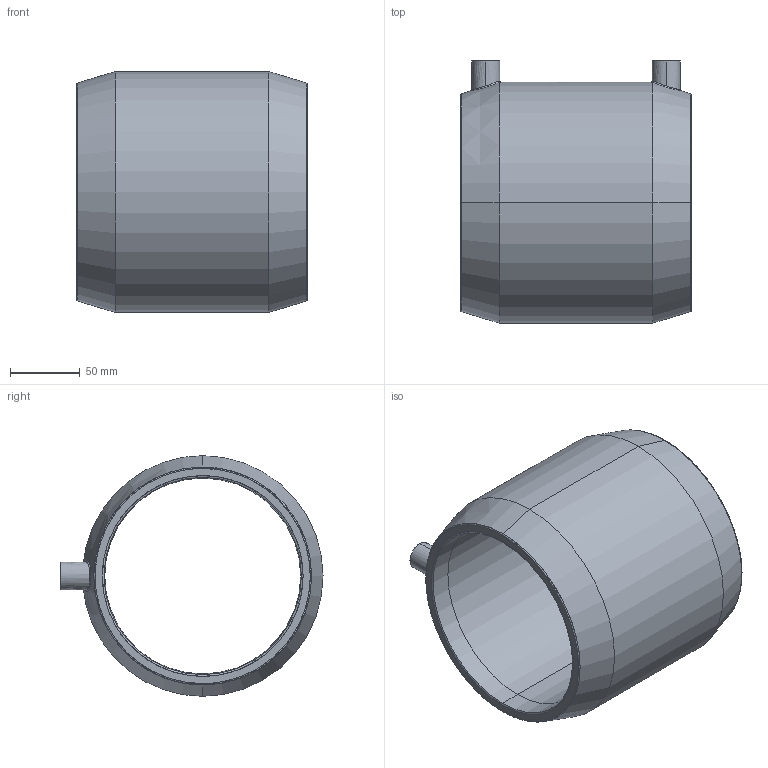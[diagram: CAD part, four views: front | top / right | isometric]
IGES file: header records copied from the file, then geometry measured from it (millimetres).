
Start section: SolidWorks IGES file using analytic representation for surfaces
Global section: file name: G:\Group\Marketing\Public\CAD Offering - Website\1. coupler\CBKHA140.IGS; native system: SolidWorks 2017; preprocessor: SolidWorks 2017; author: hwegrzynska; date: 180919.151911; units: millimetre
Bounding box: 165.01 x 187.29 x 172 mm (x, y, z)
Surface area: 171488.7 mm2 (no closed solid volume)
Topology: 0 solids, 0 shells, 48 faces, 940 edges, 940 vertices
Faces by surface type: revolution 32, bspline 16
